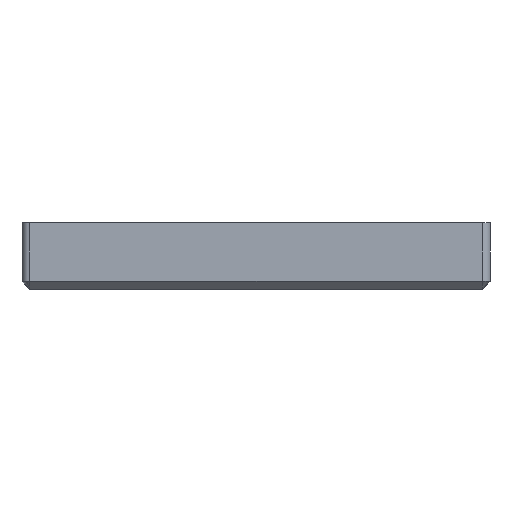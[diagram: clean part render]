
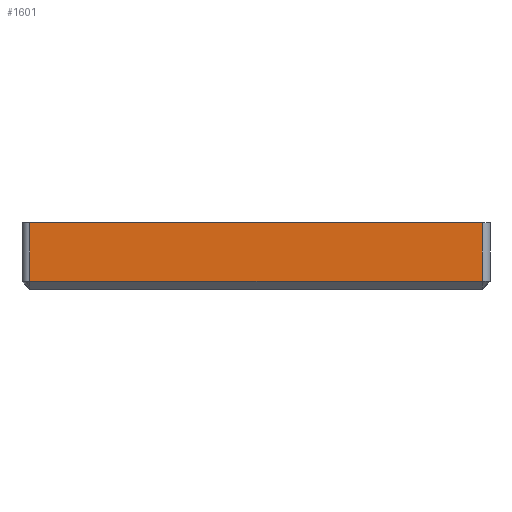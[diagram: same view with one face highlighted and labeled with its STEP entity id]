
A CAD part, left-side view. The second image highlights one B-rep face of the part: STEP entity #1601.
In plain terms, the highlighted planar face has unit normal (-1, 0, 0).
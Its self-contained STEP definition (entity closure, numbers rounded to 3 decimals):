
#159 = PLANE('',#160);
#160 = AXIS2_PLACEMENT_3D('',#161,#162,#163);
#161 = CARTESIAN_POINT('',(71.1,-69.445,-4.85));
#162 = DIRECTION('',(0.707,0.,0.707));
#163 = DIRECTION('',(0.,-1.,0.));
#755 = VERTEX_POINT('',#756);
#756 = CARTESIAN_POINT('',(70.6,-69.445,-4.35));
#777 = EDGE_CURVE('',#755,#778,#780,.T.);
#778 = VERTEX_POINT('',#779);
#779 = CARTESIAN_POINT('',(70.6,-126.,-4.35));
#780 = SURFACE_CURVE('',#781,(#785,#792),.PCURVE_S1.);
#781 = LINE('',#782,#783);
#782 = CARTESIAN_POINT('',(70.6,-69.445,-4.35));
#783 = VECTOR('',#784,1.);
#784 = DIRECTION('',(0.,-1.,0.));
#785 = PCURVE('',#159,#786);
#786 = DEFINITIONAL_REPRESENTATION('',(#787),#791);
#787 = LINE('',#788,#789);
#788 = CARTESIAN_POINT('',(0.,-0.707));
#789 = VECTOR('',#790,1.);
#790 = DIRECTION('',(1.,0.));
#791 = ( GEOMETRIC_REPRESENTATION_CONTEXT(2) 
PARAMETRIC_REPRESENTATION_CONTEXT() REPRESENTATION_CONTEXT('2D SPACE',''
  ) );
#792 = PCURVE('',#793,#798);
#793 = PLANE('',#794);
#794 = AXIS2_PLACEMENT_3D('',#795,#796,#797);
#795 = CARTESIAN_POINT('',(70.6,-97.723,-1.175));
#796 = DIRECTION('',(-1.,-0.,-0.));
#797 = DIRECTION('',(0.,0.,-1.));
#798 = DEFINITIONAL_REPRESENTATION('',(#799),#803);
#799 = LINE('',#800,#801);
#800 = CARTESIAN_POINT('',(3.175,-28.278));
#801 = VECTOR('',#802,1.);
#802 = DIRECTION('',(0.,1.));
#803 = ( GEOMETRIC_REPRESENTATION_CONTEXT(2) 
PARAMETRIC_REPRESENTATION_CONTEXT() REPRESENTATION_CONTEXT('2D SPACE',''
  ) );
#1327 = CYLINDRICAL_SURFACE('',#1328,1.);
#1328 = AXIS2_PLACEMENT_3D('',#1329,#1330,#1331);
#1329 = CARTESIAN_POINT('',(71.6,-69.445,3.));
#1330 = DIRECTION('',(0.,0.,-1.));
#1331 = DIRECTION('',(0.,1.,0.));
#1355 = PLANE('',#1356);
#1356 = AXIS2_PLACEMENT_3D('',#1357,#1358,#1359);
#1357 = CARTESIAN_POINT('',(96.598,-103.092,3.));
#1358 = DIRECTION('',(0.,0.,1.));
#1359 = DIRECTION('',(0.,1.,0.));
#1518 = CYLINDRICAL_SURFACE('',#1519,1.);
#1519 = AXIS2_PLACEMENT_3D('',#1520,#1521,#1522);
#1520 = CARTESIAN_POINT('',(71.6,-126.,3.));
#1521 = DIRECTION('',(0.,0.,-1.));
#1522 = DIRECTION('',(-1.,-0.,-0.));
#1601 = ADVANCED_FACE('',(#1602),#793,.T.);
#1602 = FACE_BOUND('',#1603,.T.);
#1603 = EDGE_LOOP('',(#1604,#1627,#1650,#1671));
#1604 = ORIENTED_EDGE('',*,*,#1605,.F.);
#1605 = EDGE_CURVE('',#1606,#778,#1608,.T.);
#1606 = VERTEX_POINT('',#1607);
#1607 = CARTESIAN_POINT('',(70.6,-126.,3.));
#1608 = SURFACE_CURVE('',#1609,(#1613,#1620),.PCURVE_S1.);
#1609 = LINE('',#1610,#1611);
#1610 = CARTESIAN_POINT('',(70.6,-126.,3.));
#1611 = VECTOR('',#1612,1.);
#1612 = DIRECTION('',(0.,0.,-1.));
#1613 = PCURVE('',#793,#1614);
#1614 = DEFINITIONAL_REPRESENTATION('',(#1615),#1619);
#1615 = LINE('',#1616,#1617);
#1616 = CARTESIAN_POINT('',(-4.175,28.278));
#1617 = VECTOR('',#1618,1.);
#1618 = DIRECTION('',(1.,0.));
#1619 = ( GEOMETRIC_REPRESENTATION_CONTEXT(2) 
PARAMETRIC_REPRESENTATION_CONTEXT() REPRESENTATION_CONTEXT('2D SPACE',''
  ) );
#1620 = PCURVE('',#1518,#1621);
#1621 = DEFINITIONAL_REPRESENTATION('',(#1622),#1626);
#1622 = LINE('',#1623,#1624);
#1623 = CARTESIAN_POINT('',(-0.,0.));
#1624 = VECTOR('',#1625,1.);
#1625 = DIRECTION('',(-0.,1.));
#1626 = ( GEOMETRIC_REPRESENTATION_CONTEXT(2) 
PARAMETRIC_REPRESENTATION_CONTEXT() REPRESENTATION_CONTEXT('2D SPACE',''
  ) );
#1627 = ORIENTED_EDGE('',*,*,#1628,.T.);
#1628 = EDGE_CURVE('',#1606,#1629,#1631,.T.);
#1629 = VERTEX_POINT('',#1630);
#1630 = CARTESIAN_POINT('',(70.6,-69.445,3.));
#1631 = SURFACE_CURVE('',#1632,(#1636,#1643),.PCURVE_S1.);
#1632 = LINE('',#1633,#1634);
#1633 = CARTESIAN_POINT('',(70.6,-90.359,3.));
#1634 = VECTOR('',#1635,1.);
#1635 = DIRECTION('',(0.,1.,0.));
#1636 = PCURVE('',#793,#1637);
#1637 = DEFINITIONAL_REPRESENTATION('',(#1638),#1642);
#1638 = LINE('',#1639,#1640);
#1639 = CARTESIAN_POINT('',(-4.175,-7.363));
#1640 = VECTOR('',#1641,1.);
#1641 = DIRECTION('',(0.,-1.));
#1642 = ( GEOMETRIC_REPRESENTATION_CONTEXT(2) 
PARAMETRIC_REPRESENTATION_CONTEXT() REPRESENTATION_CONTEXT('2D SPACE',''
  ) );
#1643 = PCURVE('',#1355,#1644);
#1644 = DEFINITIONAL_REPRESENTATION('',(#1645),#1649);
#1645 = LINE('',#1646,#1647);
#1646 = CARTESIAN_POINT('',(12.733,25.998));
#1647 = VECTOR('',#1648,1.);
#1648 = DIRECTION('',(1.,0.));
#1649 = ( GEOMETRIC_REPRESENTATION_CONTEXT(2) 
PARAMETRIC_REPRESENTATION_CONTEXT() REPRESENTATION_CONTEXT('2D SPACE',''
  ) );
#1650 = ORIENTED_EDGE('',*,*,#1651,.T.);
#1651 = EDGE_CURVE('',#1629,#755,#1652,.T.);
#1652 = SURFACE_CURVE('',#1653,(#1657,#1664),.PCURVE_S1.);
#1653 = LINE('',#1654,#1655);
#1654 = CARTESIAN_POINT('',(70.6,-69.445,3.));
#1655 = VECTOR('',#1656,1.);
#1656 = DIRECTION('',(0.,0.,-1.));
#1657 = PCURVE('',#793,#1658);
#1658 = DEFINITIONAL_REPRESENTATION('',(#1659),#1663);
#1659 = LINE('',#1660,#1661);
#1660 = CARTESIAN_POINT('',(-4.175,-28.278));
#1661 = VECTOR('',#1662,1.);
#1662 = DIRECTION('',(1.,0.));
#1663 = ( GEOMETRIC_REPRESENTATION_CONTEXT(2) 
PARAMETRIC_REPRESENTATION_CONTEXT() REPRESENTATION_CONTEXT('2D SPACE',''
  ) );
#1664 = PCURVE('',#1327,#1665);
#1665 = DEFINITIONAL_REPRESENTATION('',(#1666),#1670);
#1666 = LINE('',#1667,#1668);
#1667 = CARTESIAN_POINT('',(-1.571,0.));
#1668 = VECTOR('',#1669,1.);
#1669 = DIRECTION('',(-0.,1.));
#1670 = ( GEOMETRIC_REPRESENTATION_CONTEXT(2) 
PARAMETRIC_REPRESENTATION_CONTEXT() REPRESENTATION_CONTEXT('2D SPACE',''
  ) );
#1671 = ORIENTED_EDGE('',*,*,#777,.T.);
